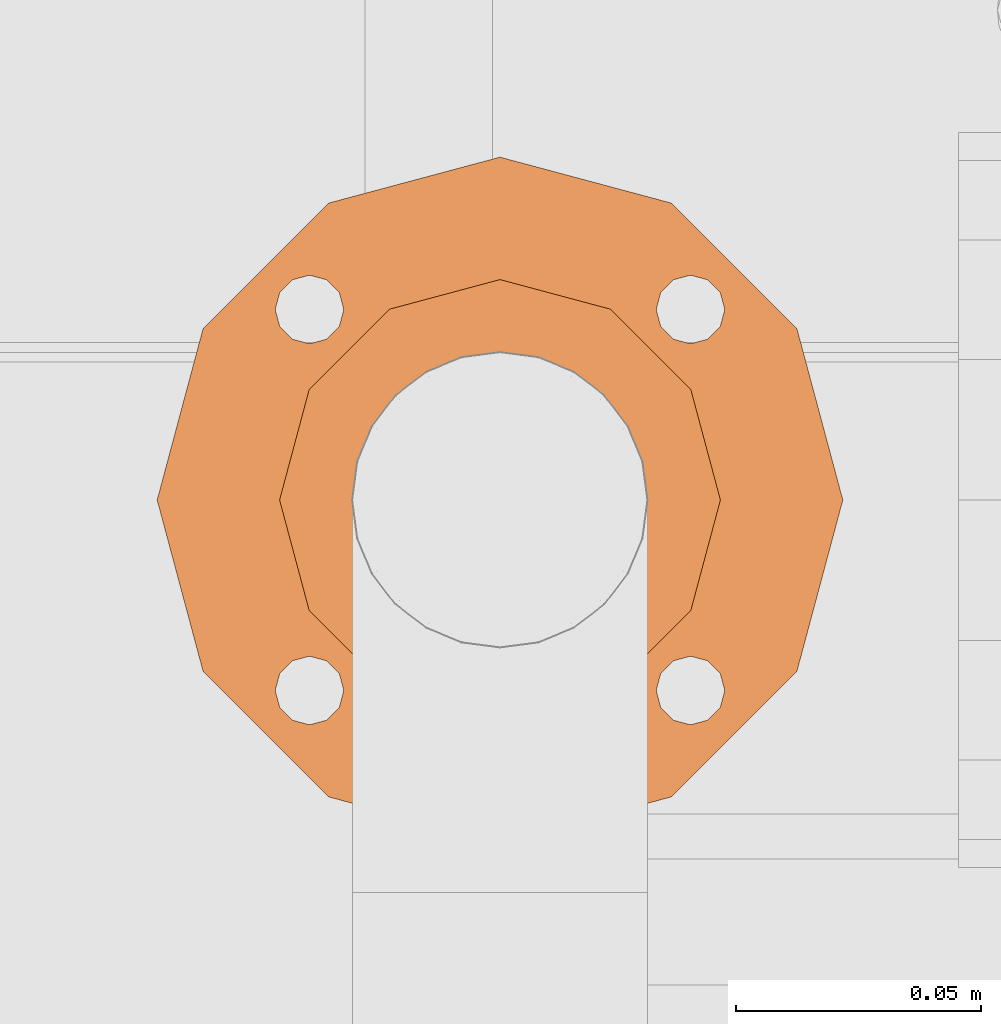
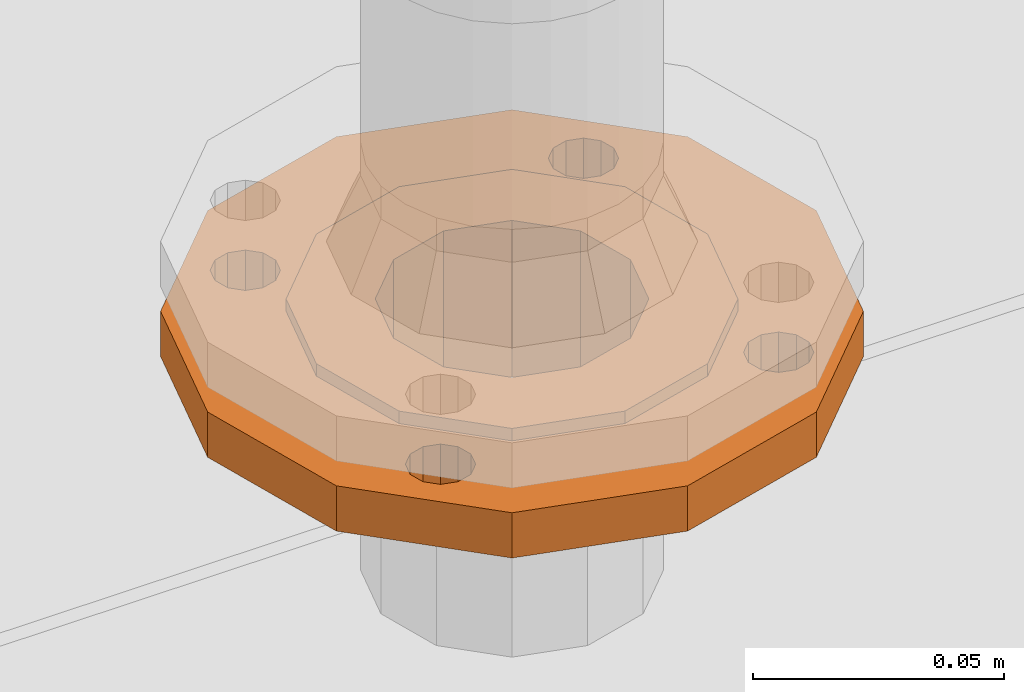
# One storey, part 369 of 374: 1 proxy.
"""IFC2X3 building model written with IfcOpenShell, lengths in metres."""

import ifcopenshell
import ifcopenshell.guid

model = None  # the IFC model being written
_history = None  # IfcOwnerHistory: only IFC2X3 demands one
_inside = {}  # id of a spatial element -> (the spatial element, [elements in it])
_under = {}  # id of a project, library or spatial element -> (it, [spatial elements below it])
_declared = {}  # id of a project -> (the project, [libraries it declares])
_typed = {}  # id of a type object -> (the type object, [elements of that type])
_made_of = {}  # id of a material, layer set ... -> (it, [elements and type objects made of it])


def new_model(schema):
    """Start an empty IFC model of exactly this schema.

    Asked for "IFC4X3", IfcOpenShell would pick the latest addendum, in which some entities
    have other attributes; the version numbers below select the first issue.
    IFC2X3 requires an IfcOwnerHistory on every rooted entity: one is made here for all.
    """
    global model, _history
    if schema == "IFC4X3":
        model = ifcopenshell.file(schema_version=(4, 3, 0, 0))
    else:
        model = ifcopenshell.file(schema=schema)
    _inside.clear()
    _under.clear()
    _declared.clear()
    _typed.clear()
    _made_of.clear()
    _history = None
    if model.schema == "IFC2X3":
        org = make("IfcOrganization", Name="unknown")
        user = make(
            "IfcPersonAndOrganization",
            ThePerson=make("IfcPerson", FamilyName="unknown"),
            TheOrganization=org,
        )
        app = make(
            "IfcApplication",
            ApplicationDeveloper=org,
            Version="unknown",
            ApplicationFullName="unknown",
            ApplicationIdentifier="unknown",
        )
        _history = make(
            "IfcOwnerHistory",
            OwningUser=user,
            OwningApplication=app,
            ChangeAction="ADDED",
            CreationDate=0,
        )
    return model


def make(cls, **values):
    """One entity of the class cls with the attributes given. An attribute that is None is left unset."""
    return model.create_entity(
        cls, **{name: value for name, value in values.items() if value is not None}
    )


def rooted(cls, **values):
    """An entity with a GlobalId (a new one), such as an element, a storey or a relation."""
    return make(cls, GlobalId=ifcopenshell.guid.new(), OwnerHistory=_history, **values)


def si_unit(unit_type, name, prefix=None):
    """IfcSIUnit, for example si_unit("LENGTHUNIT", "METRE", prefix="MILLI")."""
    return make("IfcSIUnit", UnitType=unit_type, Prefix=prefix, Name=name)


def assignment(units):
    """IfcUnitAssignment: the units of a project."""
    return None if units is None else make("IfcUnitAssignment", Units=units)


def point(xyz):
    """IfcCartesianPoint."""
    return None if xyz is None else make("IfcCartesianPoint", Coordinates=xyz)


def direction(xyz):
    """IfcDirection."""
    return None if xyz is None else make("IfcDirection", DirectionRatios=xyz)


def frame(location, z_axis=None, x_axis=None):
    """IfcAxis2Placement3D, a coordinate frame: its origin and axes. An axis left out is left unset."""
    return make(
        "IfcAxis2Placement3D",
        Location=point(location),
        Axis=direction(z_axis),
        RefDirection=direction(x_axis),
    )


def origin():
    """The frame at (0, 0, 0) with its axes left unset."""
    return frame((0.0, 0.0, 0.0))


def place(relative_to, where):
    """IfcLocalPlacement: puts the frame where relative to a parent placement (None: the world)."""
    return make(
        "IfcLocalPlacement", PlacementRelTo=relative_to, RelativePlacement=where
    )


def context(
    kind, dimensions, precision=None, world=None, true_north=None, identifier=None
):
    """IfcGeometricRepresentationContext, for example the 3D "Model" context."""
    return make(
        "IfcGeometricRepresentationContext",
        ContextIdentifier=identifier,
        ContextType=kind,
        CoordinateSpaceDimension=dimensions,
        Precision=precision,
        WorldCoordinateSystem=world,
        TrueNorth=true_north,
    )


def subcontext(parent, identifier, kind, view, scale=None):
    """IfcGeometricRepresentationSubContext, for example "Body" below "Model"."""
    return make(
        "IfcGeometricRepresentationSubContext",
        ContextIdentifier=identifier,
        ContextType=kind,
        ParentContext=parent,
        TargetScale=scale,
        TargetView=view,
    )


def project(units=None, contexts=None):
    """IfcProject with its units and contexts."""
    return rooted(
        "IfcProject",
        Name="project",
        RepresentationContexts=contexts,
        UnitsInContext=assignment(units),
    )


def spatial(cls, under=None, at=None, **own):
    """A site, building, storey or space (cls), placed at a placement, below another one or the project."""
    s = rooted(cls, ObjectPlacement=at, **own)
    if under is not None:
        _under.setdefault(under.id(), (under, []))[1].append(s)
    return s


def faces_of(points, faces, orient=None, outer=None):
    """IfcFace entities. A face is a list of loops; a loop is a list of indices into points, from 0.

    orient and outer hold one flag for each loop. By default every Orientation is true, the
    first loop of a face is its IfcFaceOuterBound and the others are IfcFaceBound.
    """
    made = []
    for i, loops in enumerate(faces):
        bounds = []
        for j, loop in enumerate(loops):
            is_outer = j == 0 if outer is None else outer[i][j]
            bounds.append(
                make(
                    "IfcFaceOuterBound" if is_outer else "IfcFaceBound",
                    Bound=make("IfcPolyLoop", Polygon=[points[k] for k in loop]),
                    Orientation=True if orient is None else orient[i][j],
                )
            )
        made.append(make("IfcFace", Bounds=bounds))
    return made


def open_shell(faces, orient=None, outer=None):
    """The faces of one IfcOpenShell. surface_model builds it on its shared points."""
    return ("IfcOpenShell", faces, orient, outer)


def surface_model(cls, points, shells):
    """IfcFaceBasedSurfaceModel or IfcShellBasedSurfaceModel (cls): surfaces that need not close."""
    shared = [point(p) for p in points]
    made = [make(c, CfsFaces=faces_of(shared, fs, o, b)) for c, fs, o, b in shells]
    if cls == "IfcFaceBasedSurfaceModel":
        return make(cls, FbsmFaces=made)
    return make(cls, SbsmBoundary=made)


def shape(context_of_items, identifier, shape_type, items):
    """IfcShapeRepresentation: the items that make up one representation, for example the "Body"."""
    return make(
        "IfcShapeRepresentation",
        ContextOfItems=context_of_items,
        RepresentationIdentifier=identifier,
        RepresentationType=shape_type,
        Items=items,
    )


def source(mapping_origin, context_of_items, identifier, shape_type, items):
    """IfcRepresentationMap: a shape defined once, which mapped items show again and again."""
    return make(
        "IfcRepresentationMap",
        MappingOrigin=mapping_origin,
        MappedRepresentation=shape(context_of_items, identifier, shape_type, items),
    )


def transform(
    local_origin,
    x_axis=None,
    y_axis=None,
    z_axis=None,
    scale=None,
    scale2=None,
    scale3=None,
    uniform=True,
):
    """IfcCartesianTransformationOperator3D, or its non-uniform kind. x_axis, y_axis, z_axis: its Axis1, 2, 3."""
    if uniform:
        return make(
            "IfcCartesianTransformationOperator3D",
            Axis1=direction(x_axis),
            Axis2=direction(y_axis),
            LocalOrigin=point(local_origin),
            Scale=scale,
            Axis3=direction(z_axis),
        )
    return make(
        "IfcCartesianTransformationOperator3DnonUniform",
        Axis1=direction(x_axis),
        Axis2=direction(y_axis),
        LocalOrigin=point(local_origin),
        Scale=scale,
        Axis3=direction(z_axis),
        Scale2=scale2,
        Scale3=scale3,
    )


def mapped(mapping_source, mapping_target):
    """IfcMappedItem: shows the shape of a source again, moved by a transform."""
    return make(
        "IfcMappedItem", MappingSource=mapping_source, MappingTarget=mapping_target
    )


def made_of(thing, what):
    """Note that an element or type object is made of a material, layer set ...; save() writes the relation."""
    if what is not None:
        _made_of.setdefault(what.id(), (what, []))[1].append(thing)
    return thing


def element(
    cls,
    number,
    at=None,
    inside=None,
    cuts=None,
    type_object=None,
    material=None,
    context=None,
    identifier="Body",
    shape_type=None,
    held_by="IfcProductDefinitionShape",
    body=None,
    shapes=None,
    **own,
):
    """One element of the class cls, such as IfcWall. Its Tag is "e" and its number.

    at: its placement. inside: the storey or other place that contains it. cuts: it is an
    opening in that element (IfcRelVoidsElement). A single representation is given by context,
    identifier, shape_type and body (its items); several are given by shapes. held_by: the class
    of the entity that holds the representations. save() writes the other relations.
    """
    e = rooted(cls, Tag="e%d" % number, ObjectPlacement=at, **own)
    if body is not None:
        shapes = [shape(context, identifier, shape_type, body)]
    if shapes is not None:
        e.Representation = make(held_by, Representations=shapes)
    if inside is not None:
        _inside.setdefault(inside.id(), (inside, []))[1].append(e)
    if cuts is not None:
        rooted(
            "IfcRelVoidsElement", RelatingBuildingElement=cuts, RelatedOpeningElement=e
        )
    if type_object is not None:
        _typed.setdefault(type_object.id(), (type_object, []))[1].append(e)
    return made_of(e, material)


def aggregate(whole, parts):
    """IfcRelAggregates: a whole, such as a stair, and the parts it consists of."""
    return rooted("IfcRelAggregates", RelatingObject=whole, RelatedObjects=parts)


def save(model, path):
    """Write the relations noted so far, then the file.

    IfcRelAggregates (storeys below a building ...), IfcRelContainedInSpatialStructure (elements
    in a storey), IfcRelDefinesByType, IfcRelAssociatesMaterial and IfcRelDeclares: one each for
    every whole, place, type object, material and project.
    """
    for whole, parts in _under.values():
        aggregate(whole, parts)
    for where, things in _inside.values():
        rooted(
            "IfcRelContainedInSpatialStructure",
            RelatedElements=things,
            RelatingStructure=where,
        )
    for kind, things in _typed.values():
        rooted("IfcRelDefinesByType", RelatedObjects=things, RelatingType=kind)
    for what, things in _made_of.values():
        rooted("IfcRelAssociatesMaterial", RelatedObjects=things, RelatingMaterial=what)
    for by, libraries in _declared.values():
        rooted("IfcRelDeclares", RelatingContext=by, RelatedDefinitions=libraries)
    model.write(path)


model = new_model("IFC2X3")

# Units and contexts
model_context = context("Model", 3, precision=1e-05, world=origin(), true_north=direction((-0.4480736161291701, 0.8939966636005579)))
body_context = subcontext(model_context, "Body", "Model", "MODEL_VIEW")
ifc_project = project(units=[si_unit("LENGTHUNIT", "METRE"), si_unit("AREAUNIT", "SQUARE_METRE"), si_unit("VOLUMEUNIT", "CUBIC_METRE"), si_unit("PLANEANGLEUNIT", "RADIAN"), si_unit("THERMODYNAMICTEMPERATUREUNIT", "KELVIN"), si_unit("MASSUNIT", "GRAM", prefix="KILO"), si_unit("TIMEUNIT", "SECOND")], contexts=[model_context])

# Site, building, storey
site_placement = place(None, origin())
site = spatial("IfcSite", under=ifc_project, at=site_placement, Name="Site 1", CompositionType="ELEMENT")
building_placement = place(site_placement, origin())
building = spatial("IfcBuilding", under=site, at=building_placement, Name="Undefined", CompositionType="ELEMENT")
storey_placement = place(building_placement, origin())
storey = spatial("IfcBuildingStorey", under=building, at=storey_placement, Name="Rez de chauss\x8ee", CompositionType="ELEMENT", Elevation=0.0)

# Proxy
shared_shape = source(origin(), body_context, "Body", "SurfaceModel", [
    surface_model("IfcFaceBasedSurfaceModel", [(0.011581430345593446, 7.105427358e-15, 7.105427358e-15), (0.010447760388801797, 0.0034415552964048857, 3.552713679e-15), (0.0, 0.0, 0.0), (0.009465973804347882, 0.006422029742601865, 0.0018117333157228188), (-0.0009817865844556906, 0.0029804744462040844, 0.0018117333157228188), (0.00889913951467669, 0.008142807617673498, 0.004949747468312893), (-0.0015486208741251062, 0.004701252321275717, 0.004949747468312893), (0.008899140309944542, 0.008142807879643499, 0.00857321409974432), (-0.001548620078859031, 0.004701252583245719, 0.00857321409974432), (0.009465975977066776, 0.006422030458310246, 0.011711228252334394), (-0.0009817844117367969, 0.002980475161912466, 0.011711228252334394), (0.010447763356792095, 0.003441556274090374, 0.013522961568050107), (2.967983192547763e-09, 9.77678382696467e-10, 0.013522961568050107), (0.01158143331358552, 9.77678382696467e-10, 0.013522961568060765), (0.0011336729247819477, -0.0034415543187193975, 0.013522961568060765), (0.012563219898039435, -0.0029804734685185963, 0.011711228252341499), (0.0021154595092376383, -0.0064220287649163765, 0.011711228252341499), (0.013130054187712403, -0.004701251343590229, 0.008573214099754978), (0.0026822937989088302, -0.00814280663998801, 0.008573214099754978), (0.013130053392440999, -0.004701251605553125, 0.004949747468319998), (0.002682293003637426, -0.00814280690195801, 0.004949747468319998), (0.012563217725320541, -0.0029804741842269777, 0.0018117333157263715), (0.002115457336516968, -0.006422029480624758, 0.0018117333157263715), (0.0011336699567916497, -0.003441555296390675, 7.105427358e-15), (0.010447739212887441, 0.003441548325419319, -0.09647703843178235), (0.011581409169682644, -6.970971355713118e-09, -0.0964770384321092), (0.0011336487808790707, -0.003441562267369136, -0.0964770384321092), (0.01256319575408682, -0.0029804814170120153, -0.09828877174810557), (0.002115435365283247, -0.0064220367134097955, -0.09828877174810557), (0.01313003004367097, -0.004701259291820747, -0.10142678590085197), (0.0026822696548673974, -0.008142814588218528, -0.10142678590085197), (0.013130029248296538, -0.004701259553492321, -0.1050502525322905), (0.0026822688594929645, -0.008142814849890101, -0.1050502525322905), (0.012563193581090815, -0.0029804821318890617, -0.10818826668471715), (0.0021154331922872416, -0.006422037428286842, -0.10818826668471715), (0.011581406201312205, -7.94751287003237e-09, -0.1100000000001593), (0.001133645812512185, -0.003441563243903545, -0.1100000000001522), (0.010447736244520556, 0.0034415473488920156, -0.10999999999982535), (-2.414428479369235e-08, -7.947505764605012e-09, -0.10999999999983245), (0.009465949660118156, 0.006422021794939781, -0.10818826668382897), (-0.0009818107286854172, 0.0029804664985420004, -0.10818826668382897), (0.008899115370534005, 0.008142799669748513, -0.10505025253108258), (-0.0015486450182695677, 0.0047012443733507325, -0.10505025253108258), (0.008899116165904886, 0.00814279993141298, -0.10142678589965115), (-0.001548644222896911, 0.004701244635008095, -0.10142678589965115), (0.009465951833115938, 0.006422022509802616, -0.0982887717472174), (-0.0009818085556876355, 0.002980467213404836, -0.0982887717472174), (-2.1175917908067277e-08, -6.970978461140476e-09, -0.09647703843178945), (-0.0040777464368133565, 0.04753754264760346, -0.04642678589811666), (-0.004077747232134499, 0.04753754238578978, -0.05005025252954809), (-0.014525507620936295, 0.044095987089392, -0.05005025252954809), (-0.004644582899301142, 0.04925831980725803, -0.0531882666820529), (-0.015092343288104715, 0.04581676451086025, -0.0531882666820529), (-0.005626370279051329, 0.052238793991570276, -0.05499999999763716), (-0.016074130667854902, 0.04879723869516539, -0.05499999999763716), (-0.006760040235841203, 0.05568034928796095, -0.05499999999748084), (-0.017207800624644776, 0.05223879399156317, -0.05499999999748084), (-0.007741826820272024, 0.05866082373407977, -0.05318826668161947), (-0.018189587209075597, 0.05521926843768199, -0.05318826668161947), (-0.008308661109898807, 0.060381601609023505, -0.05005025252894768), (-0.01875642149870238, 0.056940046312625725, -0.05005025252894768), (-0.008308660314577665, 0.06038160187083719, -0.0464267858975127), (-0.018756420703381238, 0.0569400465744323, -0.0464267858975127), (-0.007741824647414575, 0.05866082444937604, -0.04328877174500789), (-0.018189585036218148, 0.055219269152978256, -0.04328877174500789), (-0.006760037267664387, 0.055680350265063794, -0.04147703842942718), (-0.017207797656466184, 0.052238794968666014, -0.04147703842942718), (-0.005626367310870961, 0.05223879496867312, -0.04147703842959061), (-0.016074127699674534, 0.04879723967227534, -0.04147703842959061), (-0.004644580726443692, 0.049258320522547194, -0.04328877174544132), (-0.015092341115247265, 0.045816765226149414, -0.04328877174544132), (-0.01452550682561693, 0.04409598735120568, -0.04642678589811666), (0.02610691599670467, -0.0440959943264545, -0.050050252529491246), (0.026106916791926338, -0.04409599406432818, -0.046426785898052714), (0.015659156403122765, -0.04753754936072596, -0.046426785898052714), (0.026673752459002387, -0.04581677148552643, -0.043288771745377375), (0.01622599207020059, -0.04925832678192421, -0.043288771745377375), (0.02765553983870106, -0.04879724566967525, -0.041477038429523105), (0.017207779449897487, -0.052238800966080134, -0.041477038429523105), (0.02878920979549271, -0.05223880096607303, -0.04147703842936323), (0.018341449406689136, -0.05568035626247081, -0.04147703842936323), (0.029770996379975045, -0.05521927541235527, -0.04328877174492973), (0.019323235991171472, -0.05866083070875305, -0.04328877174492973), (0.030337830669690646, -0.056940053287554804, -0.04642678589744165), (0.019890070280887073, -0.060381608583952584, -0.04642678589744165), (0.030337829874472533, -0.05694005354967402, -0.050050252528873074), (0.01989006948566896, -0.060381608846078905, -0.050050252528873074), (0.029770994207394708, -0.05521927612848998, -0.05318826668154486), (0.019323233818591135, -0.05866083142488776, -0.05318826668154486), (0.028789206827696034, -0.05223880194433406, -0.054999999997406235), (0.018341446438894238, -0.05568035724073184, -0.054999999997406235), (0.027655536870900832, -0.04879724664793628, -0.05499999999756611), (0.017207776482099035, -0.05223880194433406, -0.05499999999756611), (0.02667375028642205, -0.04581677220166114, -0.053188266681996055), (0.016225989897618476, -0.04925832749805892, -0.053188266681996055), (0.015659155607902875, -0.04753754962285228, -0.050050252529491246), (-0.01978685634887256, -0.016641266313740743, -0.07736118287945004), (-0.015558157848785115, -0.029478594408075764, -0.06955778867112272), (-0.016199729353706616, -0.027530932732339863, -0.06750717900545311), (-0.013116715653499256, -0.036890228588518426, -0.05604191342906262), (-0.013993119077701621, -0.034229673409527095, -0.05529133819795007), (-0.013116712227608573, -0.03689022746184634, -0.04043512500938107), (-0.013993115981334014, -0.03422967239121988, -0.041185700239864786), (-0.015558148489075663, -0.029478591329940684, -0.026919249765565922), (-0.016199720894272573, -0.027530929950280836, -0.02896985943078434), (-0.02002167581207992, -0.015928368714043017, -0.021917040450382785), (-0.019786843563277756, -0.01664126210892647, -0.019115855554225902), (-0.024434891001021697, -0.0025308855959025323, -0.021917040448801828), (-0.024669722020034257, -0.0018179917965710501, -0.019115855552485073), (-0.028256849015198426, 0.009071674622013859, -0.028969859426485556), (-0.028898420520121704, 0.01101933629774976, -0.02691924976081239), (-0.03133986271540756, 0.018430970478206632, -0.040435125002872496), (-0.03046345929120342, 0.015770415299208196, -0.041185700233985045), (-0.03133986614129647, 0.018430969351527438, -0.056041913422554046), (-0.03046346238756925, 0.015770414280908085, -0.05529133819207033), (-0.028256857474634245, 0.009071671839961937, -0.06750717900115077), (-0.028898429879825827, 0.011019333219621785, -0.06955778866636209), (-0.024434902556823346, -0.002530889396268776, -0.07455999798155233), (-0.024669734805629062, -0.0018179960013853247, -0.07736118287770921), (-0.020021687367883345, -0.015928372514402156, -0.07455999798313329), (-0.005518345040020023, -0.034387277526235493, -0.05604191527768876), (-0.007959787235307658, -0.02697564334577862, -0.06955779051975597), (-0.012188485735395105, -0.014138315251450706, -0.07736118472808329), (-0.017071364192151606, 0.0006849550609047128, -0.07736118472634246), (-0.02130005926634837, 0.013522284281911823, -0.06955779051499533), (-0.02374149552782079, 0.020933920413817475, -0.05604191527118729), (-0.023741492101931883, 0.02093392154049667, -0.04043512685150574), (-0.021300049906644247, 0.013522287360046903, -0.026919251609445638), (-0.0170713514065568, 0.0006849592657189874, -0.019115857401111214), (-0.012188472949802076, -0.014138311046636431, -0.01911585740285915), (-0.007959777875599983, -0.02697564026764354, -0.026919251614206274), (-0.005518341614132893, -0.0343872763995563, -0.040435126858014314), (0.011748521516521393, -0.03566579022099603, -0.05781482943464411), (0.008752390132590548, -0.026570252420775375, -0.07440147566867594), (0.0035629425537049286, -0.010816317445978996, -0.0839777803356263), (-0.002429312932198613, 0.0073747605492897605, -0.08397778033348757), (-0.00761875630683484, 0.02312869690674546, -0.07440147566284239), (-0.010614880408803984, 0.03222423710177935, -0.057814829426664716), (-0.010614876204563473, 0.03222423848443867, -0.03866222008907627), (-0.007618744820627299, 0.023128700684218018, -0.02207557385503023), (-0.0024292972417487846, 0.007374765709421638, -0.01249926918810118), (0.003562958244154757, -0.010816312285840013, -0.012499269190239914), (0.00875240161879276, -0.026570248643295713, -0.022075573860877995), (0.011748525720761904, -0.035665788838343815, -0.03866222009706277), (-0.014919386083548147, 0.045291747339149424, 0.0012589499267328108), (-0.020587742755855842, 0.062499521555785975, -0.030121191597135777), (-0.0051015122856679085, 0.015487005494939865, 0.019376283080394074), (0.0062351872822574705, -0.018928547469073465, 0.019376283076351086), (0.016053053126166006, -0.048733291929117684, 0.0012589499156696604), (0.021721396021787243, -0.06594107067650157, -0.030121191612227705), (0.01605303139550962, -0.04873329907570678, -0.09773599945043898), (0.02172138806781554, -0.06594107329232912, -0.06635585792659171), (0.006235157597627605, -0.018928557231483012, -0.11585333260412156), (-0.0051015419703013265, 0.015486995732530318, -0.11585333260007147), (-0.014919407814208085, 0.04529174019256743, -0.09773599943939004), (-0.0205877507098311, 0.06249951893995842, -0.06635585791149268), (0.03216914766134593, -0.06249951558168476, -0.06635586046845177), (0.026500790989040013, -0.04529174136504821, -0.09773600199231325), (0.016682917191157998, -0.015486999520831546, -0.11585333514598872), (0.005346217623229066, 0.01892855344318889, -0.11585333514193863), (-0.004471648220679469, 0.04873329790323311, -0.09773600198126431), (-0.010139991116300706, 0.06594107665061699, -0.06635586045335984), (-0.01013998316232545, 0.06594107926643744, -0.030121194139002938), (-0.004471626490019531, 0.048733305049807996, 0.0012589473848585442), (0.00534624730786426, 0.018928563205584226, 0.01937628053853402), (0.016682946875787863, -0.015486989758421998, 0.01937628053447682), (0.02650081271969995, -0.04529173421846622, 0.0012589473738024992), (0.03216915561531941, -0.0624995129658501, -0.03012119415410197), (0.007370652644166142, 0.012782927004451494, -0.004771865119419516), (0.014658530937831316, -0.009341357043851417, -0.0047718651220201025), (0.020970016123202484, -0.028501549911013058, -0.016418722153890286), (0.02461395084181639, -0.0395636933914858, -0.036591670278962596), (0.014658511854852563, -0.009341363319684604, -0.0917051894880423), (0.00737063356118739, 0.012782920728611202, -0.0917051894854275), (-0.002584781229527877, 0.04300525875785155, -0.03659167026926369), (-0.0025847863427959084, 0.043005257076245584, -0.059885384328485), (0.0010591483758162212, 0.03194311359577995, -0.08005833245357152), (0.02461394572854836, -0.03956369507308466, -0.05988538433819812), (0.02097000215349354, -0.02850155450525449, -0.0800583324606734), (0.0010591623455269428, 0.031943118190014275, -0.016418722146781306), (0.027463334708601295, -0.038625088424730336, -0.05988538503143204), (0.02381939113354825, -0.027562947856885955, -0.08005833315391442), (0.017507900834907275, -0.008402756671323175, -0.09170519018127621), (0.010220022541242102, 0.013721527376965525, -0.09170519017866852), (0.00390853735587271, 0.03288172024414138, -0.08005833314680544), (0.00026460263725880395, 0.04394386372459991, -0.05988538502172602), (0.0002646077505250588, 0.04394386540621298, -0.0365916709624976), (0.003908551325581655, 0.0328817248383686, -0.016418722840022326), (0.010220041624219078, 0.013721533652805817, -0.004771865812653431), (0.017507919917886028, -0.008402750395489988, -0.004771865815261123), (0.02381940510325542, -0.027562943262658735, -0.0164187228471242), (0.027463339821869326, -0.03862508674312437, -0.036591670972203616), (0.016070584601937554, -0.004039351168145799, -0.021917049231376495), (0.019892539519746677, -0.015641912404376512, -0.02896986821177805), (0.022099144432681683, -0.02234065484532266, -0.041185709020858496), (0.022099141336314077, -0.02234065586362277, -0.05529134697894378), (0.01989253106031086, -0.01564191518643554, -0.06750718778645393), (0.011657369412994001, 0.00935813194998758, -0.021917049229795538), (0.007835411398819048, 0.020960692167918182, -0.02896986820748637), (0.005628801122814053, 0.02765943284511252, -0.041185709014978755), (0.0056287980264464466, 0.027659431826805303, -0.05529134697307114), (0.00783540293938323, 0.02096068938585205, -0.06750718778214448), (0.011657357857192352, 0.009358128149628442, -0.07456000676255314), (0.01607057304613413, -0.004039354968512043, -0.074560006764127)], [open_shell([[[0, 1, 2]], [[2, 1, 3]], [[2, 3, 4]], [[4, 3, 5]], [[4, 5, 6]], [[6, 5, 7]], [[6, 7, 8]], [[8, 7, 9]], [[8, 9, 10]], [[10, 9, 11]], [[10, 11, 12]], [[12, 11, 13]], [[12, 13, 14]], [[14, 13, 15]], [[14, 15, 16]], [[16, 15, 17]], [[16, 17, 18]], [[18, 17, 19]], [[18, 19, 20]], [[20, 19, 21]], [[20, 21, 22]], [[22, 21, 0]], [[22, 0, 23]], [[23, 0, 2]], [[24, 25, 26]], [[26, 25, 27]], [[26, 27, 28]], [[28, 27, 29]], [[28, 29, 30]], [[30, 29, 31]], [[30, 31, 32]], [[32, 31, 33]], [[32, 33, 34]], [[34, 33, 35]], [[34, 35, 36]], [[36, 35, 37]], [[36, 37, 38]], [[38, 37, 39]], [[38, 39, 40]], [[40, 39, 41]], [[40, 41, 42]], [[42, 41, 43]], [[42, 43, 44]], [[44, 43, 45]], [[44, 45, 46]], [[46, 45, 24]], [[46, 24, 47]], [[47, 24, 26]], [[48, 49, 50]], [[50, 49, 51]], [[50, 51, 52]], [[52, 51, 53]], [[52, 53, 54]], [[54, 53, 55]], [[54, 55, 56]], [[56, 55, 57]], [[56, 57, 58]], [[58, 57, 59]], [[58, 59, 60]], [[60, 59, 61]], [[60, 61, 62]], [[62, 61, 63]], [[62, 63, 64]], [[64, 63, 65]], [[64, 65, 66]], [[66, 65, 67]], [[66, 67, 68]], [[68, 67, 69]], [[68, 69, 70]], [[70, 69, 48]], [[70, 48, 71]], [[71, 48, 50]], [[72, 73, 74]], [[74, 73, 75]], [[74, 75, 76]], [[76, 75, 77]], [[76, 77, 78]], [[78, 77, 79]], [[78, 79, 80]], [[80, 79, 81]], [[80, 81, 82]], [[82, 81, 83]], [[82, 83, 84]], [[84, 83, 85]], [[84, 85, 86]], [[86, 85, 87]], [[86, 87, 88]], [[88, 87, 89]], [[88, 89, 90]], [[90, 89, 91]], [[90, 91, 92]], [[92, 91, 93]], [[92, 93, 94]], [[94, 93, 72]], [[94, 72, 95]], [[95, 72, 74]], [[96, 97, 98]], [[98, 97, 99]], [[98, 99, 100]], [[100, 99, 101]], [[100, 101, 102]], [[102, 101, 103]], [[102, 103, 104]], [[104, 103, 105]], [[103, 106, 105]], [[105, 106, 107]], [[106, 108, 107]], [[107, 108, 109]], [[108, 110, 109]], [[109, 110, 111]], [[109, 111, 112]], [[112, 111, 113]], [[112, 113, 114]], [[114, 113, 115]], [[113, 116, 115]], [[115, 116, 117]], [[116, 118, 117]], [[117, 118, 119]], [[118, 96, 119]], [[119, 96, 98]], [[120, 97, 121]], [[121, 97, 96]], [[121, 96, 122]], [[122, 96, 118]], [[122, 118, 123]], [[123, 118, 116]], [[123, 116, 124]], [[124, 116, 113]], [[124, 113, 125]], [[125, 113, 111]], [[125, 111, 126]], [[126, 111, 110]], [[126, 110, 127]], [[127, 110, 108]], [[127, 108, 128]], [[128, 108, 106]], [[128, 106, 129]], [[129, 106, 103]], [[129, 103, 130]], [[130, 103, 101]], [[130, 101, 131]], [[131, 101, 99]], [[131, 99, 120]], [[120, 99, 97]], [[132, 121, 133]], [[133, 121, 122]], [[133, 122, 134]], [[134, 122, 123]], [[134, 123, 135]], [[135, 123, 124]], [[135, 124, 136]], [[136, 124, 125]], [[136, 125, 137]], [[137, 125, 126]], [[137, 126, 138]], [[138, 126, 127]], [[138, 127, 139]], [[139, 127, 128]], [[139, 128, 140]], [[140, 128, 129]], [[140, 129, 141]], [[141, 129, 130]], [[141, 130, 142]], [[142, 130, 131]], [[142, 131, 143]], [[143, 131, 120]], [[143, 120, 132]], [[132, 120, 121]], [[2, 4, 140]], [[140, 4, 6]], [[140, 6, 139]], [[139, 6, 144]], [[139, 144, 68]], [[68, 144, 145]], [[68, 145, 66]], [[66, 145, 64]], [[144, 6, 146]], [[146, 6, 8]], [[146, 8, 10]], [[10, 12, 146]], [[146, 12, 147]], [[12, 14, 147]], [[147, 14, 16]], [[147, 16, 18]], [[18, 20, 147]], [[147, 20, 148]], [[22, 141, 20]], [[20, 141, 142]], [[20, 142, 148]], [[148, 142, 78]], [[148, 78, 149]], [[149, 78, 80]], [[149, 80, 82]], [[22, 23, 141]], [[141, 23, 2]], [[141, 2, 140]], [[26, 28, 134]], [[134, 28, 30]], [[134, 30, 133]], [[133, 30, 150]], [[133, 150, 92]], [[92, 150, 151]], [[92, 151, 90]], [[90, 151, 88]], [[150, 30, 152]], [[152, 30, 32]], [[152, 32, 34]], [[34, 36, 152]], [[152, 36, 153]], [[36, 38, 153]], [[153, 38, 40]], [[153, 40, 42]], [[42, 44, 153]], [[153, 44, 154]], [[46, 135, 44]], [[44, 135, 136]], [[44, 136, 154]], [[154, 136, 54]], [[154, 54, 155]], [[155, 54, 56]], [[155, 56, 58]], [[46, 47, 135]], [[135, 47, 134]], [[47, 26, 134]], [[68, 70, 138]], [[138, 70, 71]], [[138, 71, 50]], [[138, 50, 137]], [[137, 50, 52]], [[137, 52, 54]], [[58, 60, 155]], [[155, 60, 145]], [[60, 62, 145]], [[145, 62, 64]], [[92, 94, 132]], [[132, 94, 95]], [[132, 95, 74]], [[132, 74, 143]], [[143, 74, 76]], [[143, 76, 78]], [[82, 84, 149]], [[149, 84, 86]], [[149, 86, 151]], [[151, 86, 88]], [[136, 137, 54]], [[138, 139, 68]], [[142, 143, 78]], [[132, 133, 92]], [[156, 150, 157]], [[157, 150, 152]], [[157, 152, 158]], [[158, 152, 153]], [[158, 153, 159]], [[159, 153, 154]], [[159, 154, 160]], [[160, 154, 155]], [[160, 155, 161]], [[161, 155, 145]], [[161, 145, 162]], [[162, 145, 144]], [[162, 144, 163]], [[163, 144, 146]], [[163, 146, 164]], [[164, 146, 147]], [[164, 147, 165]], [[165, 147, 148]], [[165, 148, 166]], [[166, 148, 149]], [[166, 149, 167]], [[167, 149, 151]], [[167, 151, 156]], [[156, 151, 150]], [[5, 3, 168]], [[168, 3, 1]], [[168, 1, 169]], [[169, 1, 0]], [[169, 0, 21]], [[21, 19, 169]], [[169, 19, 165]], [[169, 165, 170]], [[170, 165, 166]], [[170, 166, 171]], [[171, 166, 167]], [[171, 167, 77]], [[77, 167, 79]], [[19, 17, 165]], [[165, 17, 15]], [[165, 15, 13]], [[165, 13, 164]], [[164, 13, 11]], [[164, 11, 9]], [[9, 7, 164]], [[164, 7, 5]], [[164, 5, 168]], [[29, 27, 172]], [[172, 27, 25]], [[172, 25, 173]], [[173, 25, 24]], [[173, 24, 45]], [[45, 43, 173]], [[173, 43, 159]], [[173, 159, 160]], [[43, 41, 159]], [[159, 41, 39]], [[159, 39, 37]], [[159, 37, 158]], [[158, 37, 35]], [[158, 35, 33]], [[33, 31, 158]], [[158, 31, 29]], [[158, 29, 172]], [[48, 69, 174]], [[174, 69, 67]], [[174, 67, 162]], [[162, 67, 65]], [[162, 65, 63]], [[63, 61, 162]], [[162, 61, 59]], [[162, 59, 161]], [[161, 59, 57]], [[161, 57, 55]], [[55, 53, 161]], [[161, 53, 175]], [[161, 175, 160]], [[160, 175, 176]], [[160, 176, 173]], [[53, 51, 175]], [[175, 51, 49]], [[175, 49, 174]], [[174, 49, 48]], [[72, 93, 177]], [[177, 93, 91]], [[177, 91, 156]], [[156, 91, 89]], [[156, 89, 87]], [[87, 85, 156]], [[156, 85, 167]], [[85, 83, 167]], [[167, 83, 81]], [[167, 81, 79]], [[77, 75, 171]], [[171, 75, 73]], [[171, 73, 72]], [[177, 156, 178]], [[178, 156, 157]], [[178, 157, 158]], [[177, 171, 72]], [[164, 168, 163]], [[163, 168, 179]], [[163, 179, 162]], [[162, 179, 174]], [[172, 178, 158]], [[180, 178, 181]], [[181, 178, 172]], [[181, 172, 182]], [[182, 172, 173]], [[182, 173, 183]], [[183, 173, 176]], [[183, 176, 184]], [[184, 176, 175]], [[184, 175, 185]], [[185, 175, 174]], [[185, 174, 186]], [[186, 174, 179]], [[186, 179, 187]], [[187, 179, 168]], [[187, 168, 188]], [[188, 168, 169]], [[188, 169, 189]], [[189, 169, 170]], [[189, 170, 190]], [[190, 170, 171]], [[190, 171, 191]], [[191, 171, 177]], [[191, 177, 180]], [[180, 177, 178]], [[192, 189, 193]], [[193, 189, 190]], [[193, 190, 194]], [[194, 190, 191]], [[194, 191, 195]], [[195, 191, 180]], [[195, 180, 196]], [[196, 180, 181]], [[196, 181, 182]], [[192, 197, 189]], [[189, 197, 188]], [[197, 198, 188]], [[188, 198, 187]], [[187, 198, 186]], [[186, 198, 199]], [[186, 199, 185]], [[185, 199, 200]], [[185, 200, 184]], [[184, 200, 201]], [[184, 201, 202]], [[184, 202, 183]], [[183, 202, 203]], [[183, 203, 182]], [[182, 203, 196]], [[100, 196, 98]], [[98, 196, 203]], [[98, 203, 119]], [[119, 203, 202]], [[119, 202, 117]], [[117, 202, 201]], [[117, 201, 115]], [[115, 201, 200]], [[115, 200, 114]], [[114, 200, 199]], [[114, 199, 112]], [[112, 199, 198]], [[112, 198, 109]], [[109, 198, 197]], [[109, 197, 107]], [[107, 197, 192]], [[107, 192, 105]], [[105, 192, 193]], [[105, 193, 104]], [[104, 193, 194]], [[104, 194, 102]], [[102, 194, 195]], [[102, 195, 100]], [[100, 195, 196]]])]),
])
proxy_placement = place(storey_placement, origin())
element("IfcBuildingElementProxy", 1, at=proxy_placement, inside=storey, Name="BuildingElementProxy 26", context=body_context, shape_type="MappedRepresentation", body=[
    mapped(shared_shape, transform((54.72927080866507, 13.091603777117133, 1.2860000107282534), x_axis=(-0.22123155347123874, -0.22123155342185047, 0.9497963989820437), y_axis=(0.6716074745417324, 0.6716074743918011, 0.3128686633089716), z_axis=(-0.7071067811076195, 0.7071067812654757, 0.0))),
])

save(model, "model.ifc")
